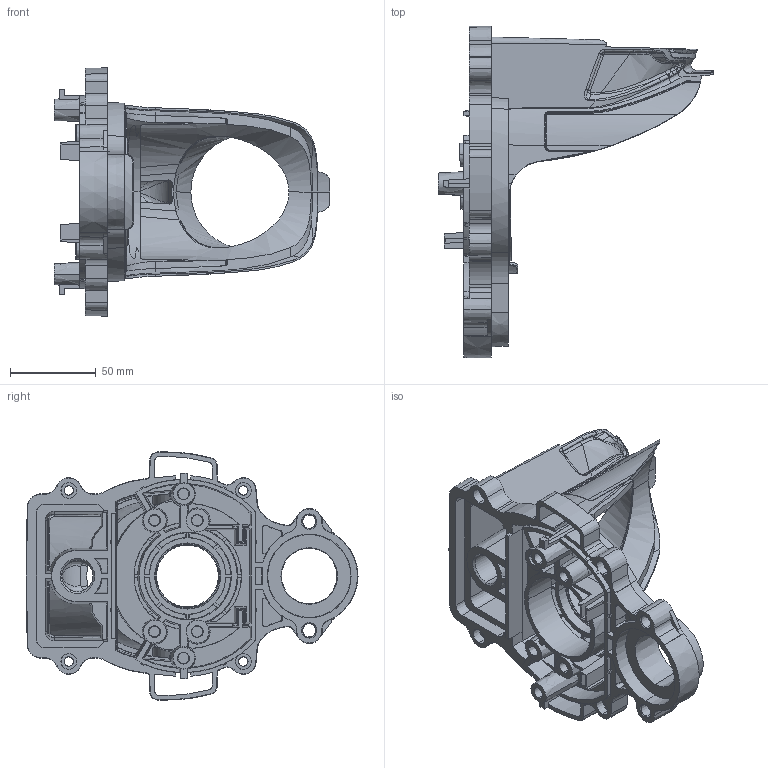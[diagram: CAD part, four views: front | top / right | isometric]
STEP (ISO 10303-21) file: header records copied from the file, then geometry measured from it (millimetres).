
FILE_DESCRIPTION (( 'STEP AP214' ), '1' );
FILE_NAME ('P-00159 - Angled Interface Plate - v2.2.7_2.2.0 Rear Press Bearing.STEP', '2026-06-12T21:48:47', ( '' ), ( '' ), 'SwSTEP 2.0', 'SolidWorks 2023', '' );
FILE_SCHEMA (( 'AUTOMOTIVE_DESIGN' ));
Length unit declared in the file: inch
Products named in the file (1): P-00159 - Angled Interface Plate - v2.2.7_2.2.0 Rear Press Bearing
Bounding box: 161 x 194 x 145.04 mm (x, y, z)
Volume: 323299 mm3; surface area: 149930.3 mm2
Topology: 1 solids, 3 shells, 1123 faces, 2989 edges, 1887 vertices
Faces by surface type: bspline 465, plane 391, cone 184, cylinder 66, torus 11, sphere 6
Entity records: 74928 total; most frequent: CARTESIAN_POINT 51327, ORIENTED_EDGE 5958, DIRECTION 3367, EDGE_CURVE 2979, VERTEX_POINT 1887, B_SPLINE_CURVE_WITH_KNOTS 1379, AXIS2_PLACEMENT_3D 1215, EDGE_LOOP 1172
